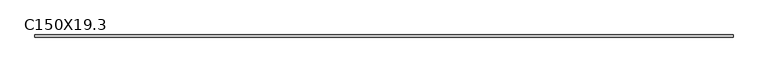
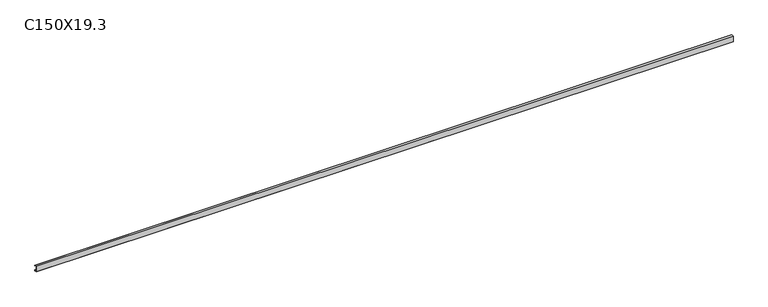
"""IFC4 building model written with IfcOpenShell, lengths in millimetres: beam geometry, EST-PER-C-HGalv : C150X19.3."""

from ifc_helpers import new_model, si_unit, frame, origin, place, context, project, spatial, polyline, outline, extrude, source, transform, mapped, element, save


def c150x19_3_09753b85(model_context):
    return source(origin(), model_context, "Body", "SweptSolid", [
        extrude(outline(polyline([(-13.1, 80.0), (46.9, 80.0), (46.9, 60.0), (44.9, 60.0), (44.9, 78.0), (-11.1, 78.0), (-11.1, -78.0), (44.9, -78.0), (44.9, -60.0), (46.9, -60.0), (46.9, -80.0), (-13.1, -80.0), (-13.1, 80.0)])), frame((-10215.0, 0.0, 0.0), z_axis=(1.0, 0.0, 0.0), x_axis=(0.0, 1.0, 0.0)), (0.0, 0.0, 1.0), 19550.0),
    ])


if __name__ == "__main__":
    model = new_model("IFC4")
    model_context = context("Model", 3, world=origin())
    ifc_project = project(units=[si_unit("LENGTHUNIT", "METRE", prefix="MILLI")], contexts=[model_context])
    site = spatial("IfcSite", under=ifc_project)
    building = spatial("IfcBuilding", under=site)
    placement = place(None, origin())
    c150x19_3_shape = c150x19_3_09753b85(model_context)
    element("IfcBeam", 1, ObjectType="EST-PER-C-HGalv : C150X19.3", at=placement, inside=building, context=model_context, shape_type="MappedRepresentation", body=[
        mapped(c150x19_3_shape, transform((0.0, 0.0, 0.0), x_axis=(1.0, 0.0, 0.0), y_axis=(0.0, 1.0, 0.0), z_axis=(0.0, 0.0, 1.0))),
    ])
    save(model, "model.ifc")
